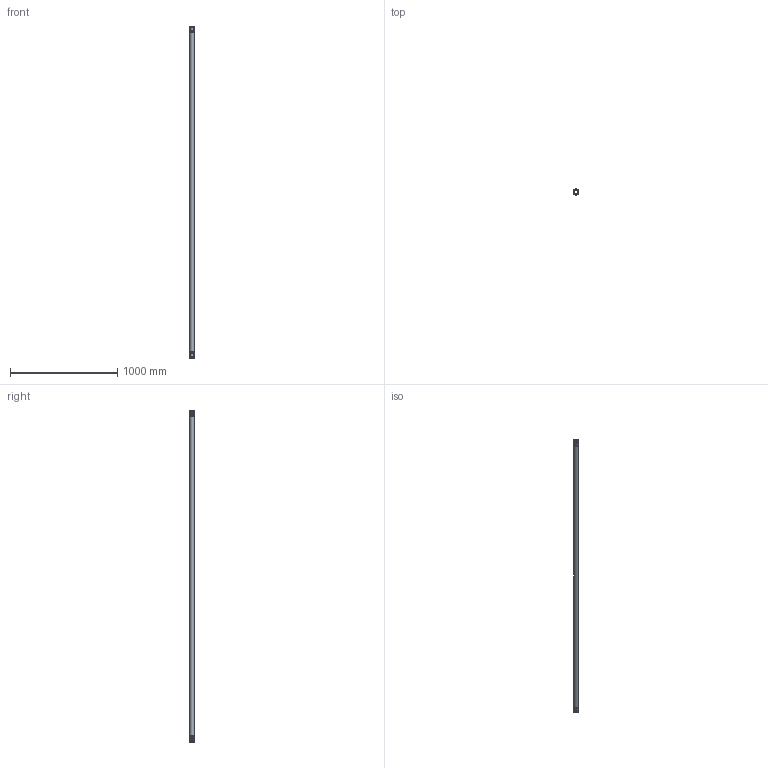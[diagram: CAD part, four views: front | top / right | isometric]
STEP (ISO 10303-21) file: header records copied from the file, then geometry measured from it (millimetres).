
FILE_DESCRIPTION(/* description */ (''),/* implementation_level */ '2;1');
FILE_NAME(/* name */ 'Z:\Geberit\Export\NewStep\Rohr2Muffen_Iassembly\stp\390114.stp',/* time_stamp */ '2014-04-03T17:48:51+02:00',/* author */ ('ML'),/* organization */ (''),/* preprocessor_version */ 'ST-DEVELOPER v15.2',/* originating_system */ 'Autodesk Inventor 2014',/* authorisation */ '');
FILE_SCHEMA (('AUTOMOTIVE_DESIGN { 1 0 10303 214 3 1 1 }'));
Length unit declared in the file: millimetre
Products named in the file (3): 861534; 861581ohne; 390114
Bounding box: 53.5 x 53.5 x 3094.6 mm (x, y, z)
Volume: 756737.8 mm3; surface area: 758585.6 mm2
Topology: 3 solids, 3 shells, 88 faces, 198 edges, 136 vertices
Faces by surface type: torus 48, cylinder 20, plane 18, cone 2
Full cylindrical faces by diameter (mm): 36.15 x3, 40.15 x3, 40.8 x4, 42.8 x2, 44.8 x4, 49.5 x2, 53.5 x2
Entity records: 1990 total; most frequent: CARTESIAN_POINT 960, DIRECTION 180, ORIENTED_EDGE 172, AXIS2_PLACEMENT_3D 90, EDGE_CURVE 86, EDGE_LOOP 76, VERTEX_POINT 70, B_SPLINE_CURVE_WITH_KNOTS 48
